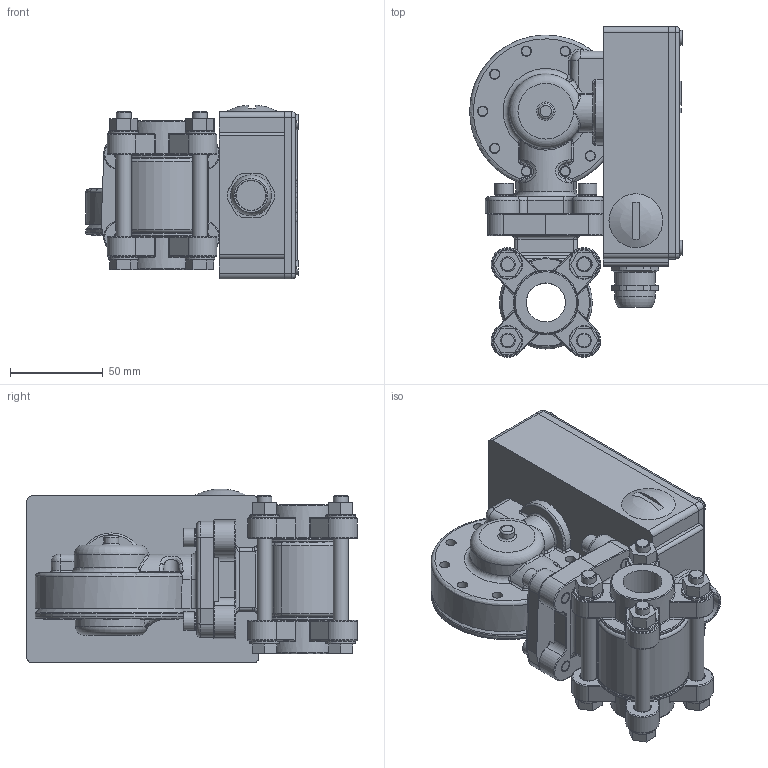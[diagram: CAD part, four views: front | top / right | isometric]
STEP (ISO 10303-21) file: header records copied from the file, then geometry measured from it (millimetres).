
FILE_DESCRIPTION(/* description */ ('Alibre Inc.'),/* implementation_level */ '2;1');
FILE_NAME(/* name */ 'export0',/* time_stamp */ '2012-10-15T10:50:33+02:00',/* author */ (''),/* organization */ (''),/* preprocessor_version */ 'ST-DEVELOPER v14',/* originating_system */ 'Alibre',/* authorisation */ '');
FILE_SCHEMA (('CONFIG_CONTROL_DESIGN'));
Length unit declared in the file: centimetre
Products named in the file (15): ID_1; ID_2; ID_3; ID_4; ID_5; ID_6; ID_7; ID_8; ID_9; ID_10; ID_11; ID_12; ID_13
Bounding box: 114.5 x 177.97 x 93.66 mm (x, y, z)
Volume: 434973.4 mm3; surface area: 201429.8 mm2
Topology: 42 solids, 42 shells, 1395 faces, 3303 edges, 2045 vertices
Faces by surface type: plane 611, cylinder 341, bspline 214, torus 135, cone 69, sphere 25
Full cylindrical faces by diameter (mm): 5 x23, 5.5 x18, 6 x8, 6.038 x2, 6.5 x8, 7.5 x1, 8 x22, 8.3 x9, 8.4 x8, 8.5 x8, 9.6 x4, 10 x4, 11.85 x1, 16 x9, 17.966 x1, 21 x2, 22 x2, 22.5 x4, 30.2 x1, 31 x1, 32.1 x1, 34.05 x2, 36.5 x2, 48 x2, 56 x2
Entity records: 45180 total; most frequent: CARTESIAN_POINT 19200, ORIENTED_EDGE 4998, DIRECTION 4296, EDGE_CURVE 2499, AXIS2_PLACEMENT_3D 1834, VERTEX_POINT 1623, EDGE_LOOP 1368, FACE_BOUND 1368
